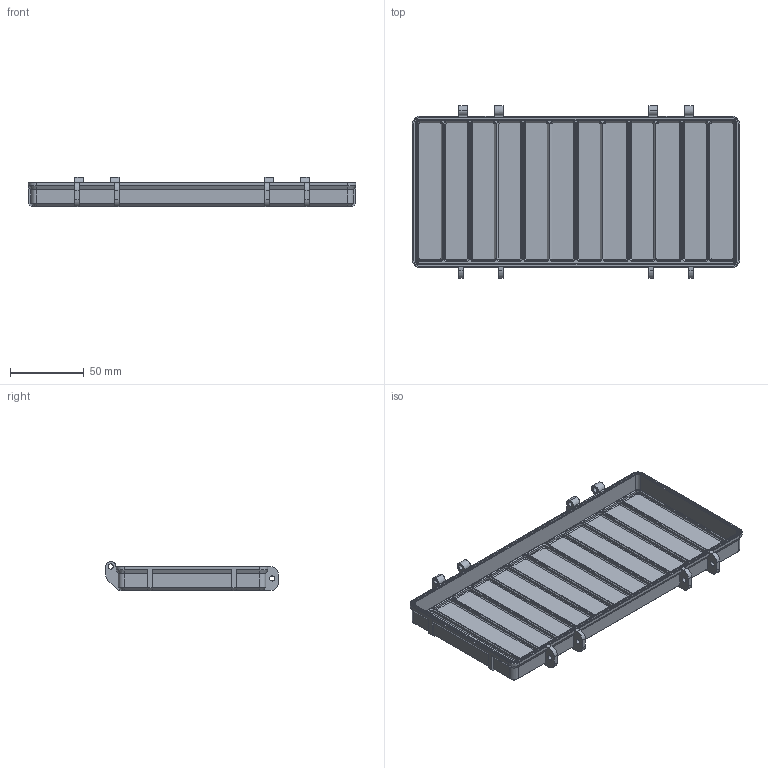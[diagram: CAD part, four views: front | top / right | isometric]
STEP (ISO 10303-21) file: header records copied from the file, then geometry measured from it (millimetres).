
FILE_DESCRIPTION (( 'STEP AP214' ), '1' );
FILE_NAME ('v2_case_bottom.STEP', '2025-12-10T22:52:36', ( '' ), ( '' ), 'SwSTEP 2.0', 'SolidWorks 2023', '' );
FILE_SCHEMA (( 'AUTOMOTIVE_DESIGN' ));
Length unit declared in the file: millimetre
Products named in the file (1): v2_case_bottom
Bounding box: 222 x 117 x 19.7 mm (x, y, z)
Volume: 47880.3 mm3; surface area: 71960.4 mm2
Topology: 1 solids, 1 shells, 531 faces, 1294 edges, 780 vertices
Faces by surface type: plane 309, cone 120, cylinder 102
Entity records: 15283 total; most frequent: DIRECTION 2682, CARTESIAN_POINT 2606, ORIENTED_EDGE 2588, EDGE_CURVE 1294, VECTOR 970, LINE 970, AXIS2_PLACEMENT_3D 856, VERTEX_POINT 780
